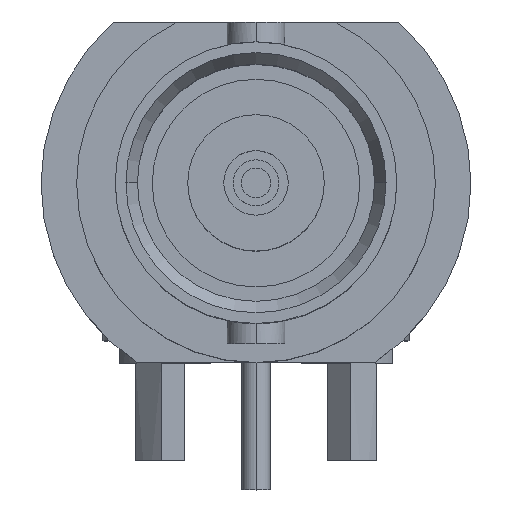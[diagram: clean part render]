
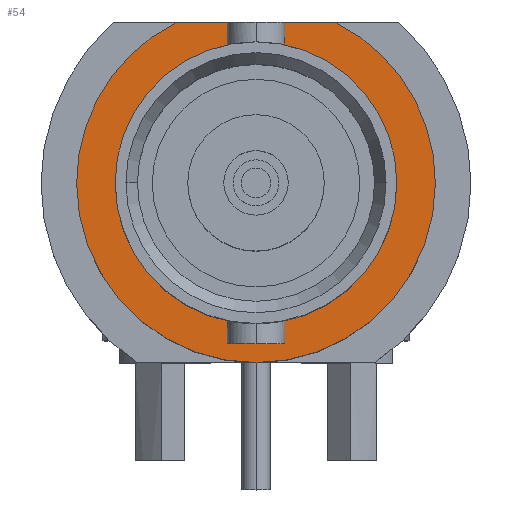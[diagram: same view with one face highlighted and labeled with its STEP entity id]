
A CAD part, top view. The second image highlights one B-rep face of the part: STEP entity #54.
In plain terms, the highlighted planar face has unit normal (0, 0, 1).
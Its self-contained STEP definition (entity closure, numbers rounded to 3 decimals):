
#54=ADVANCED_FACE('',(#163,#164),#165,.T.);
#163=FACE_OUTER_BOUND('',#372,.T.);
#164=FACE_BOUND('',#373,.T.);
#165=PLANE('',#374);
#372=EDGE_LOOP('',(#648,#649,#650,#651));
#373=EDGE_LOOP('',(#652,#653));
#374=AXIS2_PLACEMENT_3D('',#654,#655,#656);
#648=ORIENTED_EDGE('',*,*,#1399,.T.);
#649=ORIENTED_EDGE('',*,*,#1388,.T.);
#650=ORIENTED_EDGE('',*,*,#1384,.T.);
#651=ORIENTED_EDGE('',*,*,#1400,.F.);
#652=ORIENTED_EDGE('',*,*,#1389,.F.);
#653=ORIENTED_EDGE('',*,*,#1396,.T.);
#654=CARTESIAN_POINT('',(0.0,0.0,-10.668));
#655=DIRECTION('',(0.0,0.0,1.0));
#656=DIRECTION('',(1.0,0.0,0.0));
#1384=EDGE_CURVE('',#1662,#1667,#1669,.T.);
#1388=EDGE_CURVE('',#1671,#1662,#1676,.T.);
#1389=EDGE_CURVE('',#1677,#1678,#1679,.T.);
#1396=EDGE_CURVE('',#1677,#1678,#1690,.T.);
#1399=EDGE_CURVE('',#1695,#1671,#1696,.T.);
#1400=EDGE_CURVE('',#1695,#1667,#1697,.T.);
#1662=VERTEX_POINT('',#2144);
#1667=VERTEX_POINT('',#2150);
#1669=CIRCLE('',#2153,6.147);
#1671=VERTEX_POINT('',#2155);
#1676=CIRCLE('',#2161,6.147);
#1677=VERTEX_POINT('',#2162);
#1678=VERTEX_POINT('',#2163);
#1679=CIRCLE('',#2164,4.826);
#1690=CIRCLE('',#2211,4.826);
#1695=VERTEX_POINT('',#2250);
#1696=CIRCLE('',#2251,6.147);
#1697=LINE('',#2252,#2253);
#2144=CARTESIAN_POINT('',(6.147,0.,-10.668));
#2150=CARTESIAN_POINT('',(2.721,5.512,-10.668));
#2153=AXIS2_PLACEMENT_3D('',#2751,#2752,#2753);
#2155=CARTESIAN_POINT('',(-6.147,0.,-10.668));
#2161=AXIS2_PLACEMENT_3D('',#2761,#2762,#2763);
#2162=CARTESIAN_POINT('',(4.826,0.0,-10.668));
#2163=CARTESIAN_POINT('',(-4.826,0.0,-10.668));
#2164=AXIS2_PLACEMENT_3D('',#2764,#2765,#2766);
#2211=AXIS2_PLACEMENT_3D('',#2775,#2776,#2777);
#2250=CARTESIAN_POINT('',(-2.721,5.512,-10.668));
#2251=AXIS2_PLACEMENT_3D('',#2778,#2779,#2780);
#2252=CARTESIAN_POINT('',(-2.721,5.512,-10.668));
#2253=VECTOR('',#2781,5.442);
#2751=CARTESIAN_POINT('',(0.0,0.0,-10.668));
#2752=DIRECTION('',(0.0,0.0,1.0));
#2753=DIRECTION('',(-0.443,0.897,0.0));
#2761=CARTESIAN_POINT('',(0.0,0.0,-10.668));
#2762=DIRECTION('',(0.0,0.0,1.0));
#2763=DIRECTION('',(-0.443,0.897,0.0));
#2764=CARTESIAN_POINT('',(0.0,0.0,-10.668));
#2765=DIRECTION('',(0.0,0.0,1.0));
#2766=DIRECTION('',(1.0,0.0,0.0));
#2775=CARTESIAN_POINT('',(0.0,0.0,-10.668));
#2776=DIRECTION('',(0.0,0.0,-1.0));
#2777=DIRECTION('',(1.0,0.0,0.0));
#2778=CARTESIAN_POINT('',(0.0,0.0,-10.668));
#2779=DIRECTION('',(0.0,0.0,1.0));
#2780=DIRECTION('',(-0.443,0.897,0.0));
#2781=DIRECTION('',(1.0,0.0,0.0));
